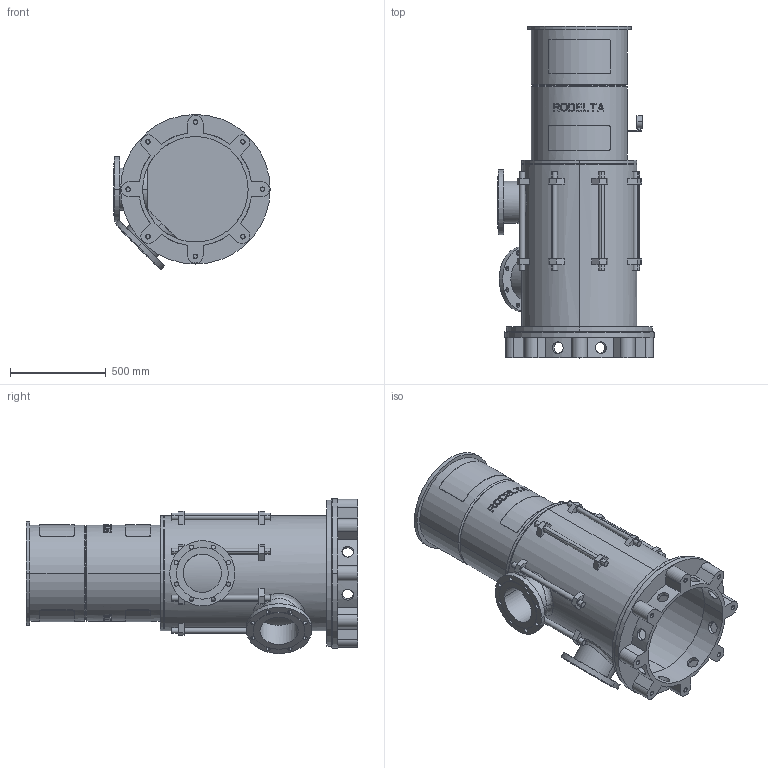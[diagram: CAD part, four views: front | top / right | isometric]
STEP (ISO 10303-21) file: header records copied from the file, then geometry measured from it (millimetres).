
FILE_DESCRIPTION((''),'2;1');
FILE_NAME('LS8_1TR_0GR','2025-10-15T15:13:06',('Lyritlocal'),(''),'CREO PARAMETRIC BY PTC INC, 2022014','CREO PARAMETRIC BY PTC INC, 2022014','');
FILE_SCHEMA(('CONFIG_CONTROL_DESIGN'));
Length unit declared in the file: millimetre
Products named in the file (1): LS8_1TR_0GR
Bounding box: 815 x 1730 x 808.61 mm (x, y, z)
Volume: 65153726.3 mm3; surface area: 8674256.5 mm2
Topology: 3 solids, 11 shells, 715 faces, 1854 edges, 1230 vertices
Faces by surface type: plane 440, cylinder 259, cone 12, bspline 4
Entity records: 23404 total; most frequent: CARTESIAN_POINT 5971, ORIENTED_EDGE 3676, DIRECTION 3432, EDGE_CURVE 1854, AXIS2_PLACEMENT_3D 1278, VERTEX_POINT 1230, VECTOR 876, LINE 876
